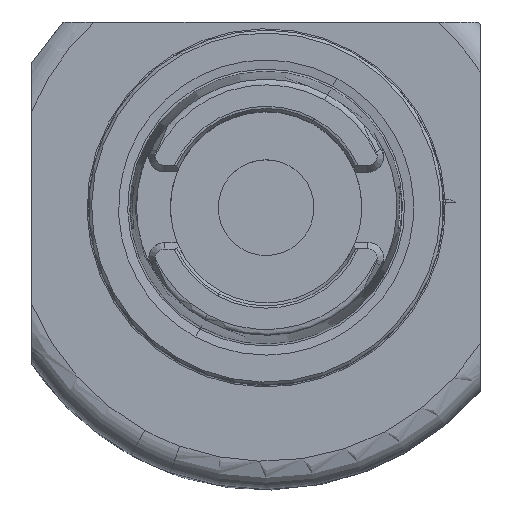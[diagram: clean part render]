
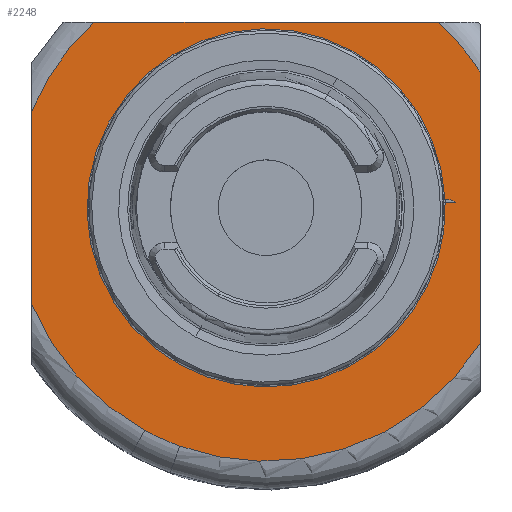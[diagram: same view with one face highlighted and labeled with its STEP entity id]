
A CAD part, top view. The second image highlights one B-rep face of the part: STEP entity #2248.
In plain terms, the highlighted planar face has unit normal (0, 0, 1).
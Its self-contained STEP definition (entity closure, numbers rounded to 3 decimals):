
#706=AXIS2_PLACEMENT_3D('Circle Axis2P3D',#704,#705,$) ;
#730=AXIS2_PLACEMENT_3D('Circle Axis2P3D',#728,#729,$) ;
#973=AXIS2_PLACEMENT_3D('Circle Axis2P3D',#971,#972,$) ;
#1698=AXIS2_PLACEMENT_3D('Circle Axis2P3D',#1696,#1697,$) ;
#2090=AXIS2_PLACEMENT_3D('Plane Axis2P3D',#2087,#2088,#2089) ;
#2171=AXIS2_PLACEMENT_3D('Circle Axis2P3D',#2169,#2170,$) ;
#2233=AXIS2_PLACEMENT_3D('Circle Axis2P3D',#2231,#2232,$) ;
#2238=AXIS2_PLACEMENT_3D('Circle Axis2P3D',#2236,#2237,$) ;
#662=CARTESIAN_POINT('Vertex',(-41.6,-17.159,-30.)) ;
#665=CARTESIAN_POINT('Line Origine',(-41.6,0.,-30.)) ;
#669=CARTESIAN_POINT('Vertex',(-41.6,17.159,-30.)) ;
#701=CARTESIAN_POINT('Vertex',(-21.574,-39.491,-30.)) ;
#704=CARTESIAN_POINT('Axis2P3D Location',(0.,0.,-30.)) ;
#725=CARTESIAN_POINT('Vertex',(-15.332,-42.308,-30.)) ;
#728=CARTESIAN_POINT('Axis2P3D Location',(0.,0.,-30.)) ;
#758=CARTESIAN_POINT('Vertex',(38.,-24.104,-30.)) ;
#762=CARTESIAN_POINT('Control Point',(38.,-24.104,-30.)) ;
#763=CARTESIAN_POINT('Control Point',(31.477,-34.388,-30.)) ;
#764=CARTESIAN_POINT('Control Point',(21.477,-42.473,-30.)) ;
#765=CARTESIAN_POINT('Control Point',(8.974,-46.741,-30.)) ;
#766=CARTESIAN_POINT('Control Point',(-3.882,-46.457,-30.)) ;
#767=CARTESIAN_POINT('Control Point',(-15.332,-42.308,-30.)) ;
#787=CARTESIAN_POINT('Vertex',(38.,1.,-30.)) ;
#790=CARTESIAN_POINT('Line Origine',(38.,-11.552,-30.)) ;
#939=CARTESIAN_POINT('Vertex',(38.,24.104,-30.)) ;
#942=CARTESIAN_POINT('Line Origine',(38.,12.552,-30.)) ;
#968=CARTESIAN_POINT('Vertex',(30.594,33.,-30.)) ;
#971=CARTESIAN_POINT('Axis2P3D Location',(0.,0.,-30.)) ;
#1005=CARTESIAN_POINT('Vertex',(-30.594,33.,-30.)) ;
#1008=CARTESIAN_POINT('Line Origine',(0.,33.,-30.)) ;
#1696=CARTESIAN_POINT('Axis2P3D Location',(0.,0.,-30.)) ;
#2087=CARTESIAN_POINT('Axis2P3D Location',(0.,-31.,-30.)) ;
#2092=CARTESIAN_POINT('Line Origine',(32.711,1.,-30.)) ;
#2096=CARTESIAN_POINT('Vertex',(31.784,1.,-30.)) ;
#2098=CARTESIAN_POINT('Vertex',(33.637,1.,-30.)) ;
#2102=CARTESIAN_POINT('Control Point',(33.637,1.,-30.)) ;
#2103=CARTESIAN_POINT('Control Point',(33.37,1.166,-30.)) ;
#2104=CARTESIAN_POINT('Control Point',(33.08,1.294,-30.)) ;
#2105=CARTESIAN_POINT('Control Point',(32.778,1.388,-30.)) ;
#2106=CARTESIAN_POINT('Control Point',(32.392,1.466,-30.)) ;
#2107=CARTESIAN_POINT('Control Point',(32.,1.494,-30.)) ;
#2108=CARTESIAN_POINT('Control Point',(31.922,1.498,-30.)) ;
#2109=CARTESIAN_POINT('Control Point',(31.843,1.5,-30.)) ;
#2110=CARTESIAN_POINT('Control Point',(31.765,1.5,-30.)) ;
#2111=CARTESIAN_POINT('Vertex',(31.765,1.5,-30.)) ;
#2166=CARTESIAN_POINT('Vertex',(15.246,27.907,-30.)) ;
#2169=CARTESIAN_POINT('Axis2P3D Location',(0.,0.,-30.)) ;
#2173=CARTESIAN_POINT('Vertex',(-15.246,-27.907,-30.)) ;
#2231=CARTESIAN_POINT('Axis2P3D Location',(0.,0.,-30.)) ;
#2236=CARTESIAN_POINT('Axis2P3D Location',(0.,0.,-30.)) ;
#666=DIRECTION('Vector Direction',(0.,-1.,0.)) ;
#705=DIRECTION('Axis2P3D Direction',(-0.,0.,-1.)) ;
#729=DIRECTION('Axis2P3D Direction',(-0.,0.,-1.)) ;
#791=DIRECTION('Vector Direction',(0.,-1.,0.)) ;
#943=DIRECTION('Vector Direction',(0.,-1.,0.)) ;
#972=DIRECTION('Axis2P3D Direction',(0.,0.,-1.)) ;
#1009=DIRECTION('Vector Direction',(-1.,0.,0.)) ;
#1697=DIRECTION('Axis2P3D Direction',(-0.,0.,-1.)) ;
#2088=DIRECTION('Axis2P3D Direction',(0.,0.,-1.)) ;
#2089=DIRECTION('Axis2P3D XDirection',(-1.,0.,0.)) ;
#2093=DIRECTION('Vector Direction',(1.,0.,0.)) ;
#2170=DIRECTION('Axis2P3D Direction',(-0.,0.,-1.)) ;
#2232=DIRECTION('Axis2P3D Direction',(0.,0.,-1.)) ;
#2237=DIRECTION('Axis2P3D Direction',(0.,0.,-1.)) ;
#667=VECTOR('Line Direction',#666,1.) ;
#792=VECTOR('Line Direction',#791,1.) ;
#944=VECTOR('Line Direction',#943,1.) ;
#1010=VECTOR('Line Direction',#1009,1.) ;
#2094=VECTOR('Line Direction',#2093,1.) ;
#2221=ORIENTED_EDGE('',*,*,#946,.F.) ;
#2222=ORIENTED_EDGE('',*,*,#975,.F.) ;
#2223=ORIENTED_EDGE('',*,*,#1012,.T.) ;
#2224=ORIENTED_EDGE('',*,*,#1700,.F.) ;
#2225=ORIENTED_EDGE('',*,*,#671,.T.) ;
#2226=ORIENTED_EDGE('',*,*,#708,.F.) ;
#2227=ORIENTED_EDGE('',*,*,#732,.F.) ;
#2228=ORIENTED_EDGE('',*,*,#768,.F.) ;
#2229=ORIENTED_EDGE('',*,*,#794,.F.) ;
#2242=ORIENTED_EDGE('',*,*,#2235,.T.) ;
#2243=ORIENTED_EDGE('',*,*,#2175,.T.) ;
#2244=ORIENTED_EDGE('',*,*,#2240,.T.) ;
#2245=ORIENTED_EDGE('',*,*,#2113,.F.) ;
#2246=ORIENTED_EDGE('',*,*,#2100,.F.) ;
#2247=FACE_BOUND('',#2241,.T.) ;
#2248=ADVANCED_FACE('NOCUT',(#2230,#2247),#2091,.F.) ;
#761=B_SPLINE_CURVE_WITH_KNOTS('',5,(#762,#763,#764,#765,#766,#767),.UNSPECIFIED.,.F.,.U.,(6,6),(-30.447,30.447),.UNSPECIFIED.) ;
#2101=B_SPLINE_CURVE_WITH_KNOTS('',5,(#2102,#2103,#2104,#2105,#2106,#2107,#2108,#2109,#2110),.UNSPECIFIED.,.F.,.U.,(6,3,6),(0.,2.224,2.78),.UNSPECIFIED.) ;
#707=CIRCLE('generated circle',#706,45.) ;
#731=CIRCLE('generated circle',#730,45.) ;
#974=CIRCLE('generated circle',#973,45.) ;
#1699=CIRCLE('generated circle',#1698,45.) ;
#2172=CIRCLE('generated circle',#2171,31.8) ;
#2234=CIRCLE('generated circle',#2233,31.8) ;
#2239=CIRCLE('generated circle',#2238,31.8) ;
#671=EDGE_CURVE('',#670,#663,#668,.T.) ;
#708=EDGE_CURVE('',#702,#663,#707,.T.) ;
#732=EDGE_CURVE('',#726,#702,#731,.T.) ;
#768=EDGE_CURVE('',#759,#726,#761,.T.) ;
#794=EDGE_CURVE('',#788,#759,#793,.T.) ;
#946=EDGE_CURVE('',#940,#788,#945,.T.) ;
#975=EDGE_CURVE('',#969,#940,#974,.T.) ;
#1012=EDGE_CURVE('',#969,#1006,#1011,.T.) ;
#1700=EDGE_CURVE('',#670,#1006,#1699,.T.) ;
#2100=EDGE_CURVE('',#2097,#2099,#2095,.T.) ;
#2113=EDGE_CURVE('',#2099,#2112,#2101,.T.) ;
#2175=EDGE_CURVE('',#2174,#2167,#2172,.T.) ;
#2235=EDGE_CURVE('',#2097,#2174,#2234,.T.) ;
#2240=EDGE_CURVE('',#2167,#2112,#2239,.T.) ;
#2220=EDGE_LOOP('',(#2221,#2222,#2223,#2224,#2225,#2226,#2227,#2228,#2229)) ;
#2241=EDGE_LOOP('',(#2242,#2243,#2244,#2245,#2246)) ;
#2230=FACE_OUTER_BOUND('',#2220,.T.) ;
#668=LINE('Line',#665,#667) ;
#793=LINE('Line',#790,#792) ;
#945=LINE('Line',#942,#944) ;
#1011=LINE('Line',#1008,#1010) ;
#2095=LINE('Line',#2092,#2094) ;
#2091=PLANE('',#2090) ;
#663=VERTEX_POINT('',#662) ;
#670=VERTEX_POINT('',#669) ;
#702=VERTEX_POINT('',#701) ;
#726=VERTEX_POINT('',#725) ;
#759=VERTEX_POINT('',#758) ;
#788=VERTEX_POINT('',#787) ;
#940=VERTEX_POINT('',#939) ;
#969=VERTEX_POINT('',#968) ;
#1006=VERTEX_POINT('',#1005) ;
#2097=VERTEX_POINT('',#2096) ;
#2099=VERTEX_POINT('',#2098) ;
#2112=VERTEX_POINT('',#2111) ;
#2167=VERTEX_POINT('',#2166) ;
#2174=VERTEX_POINT('',#2173) ;
